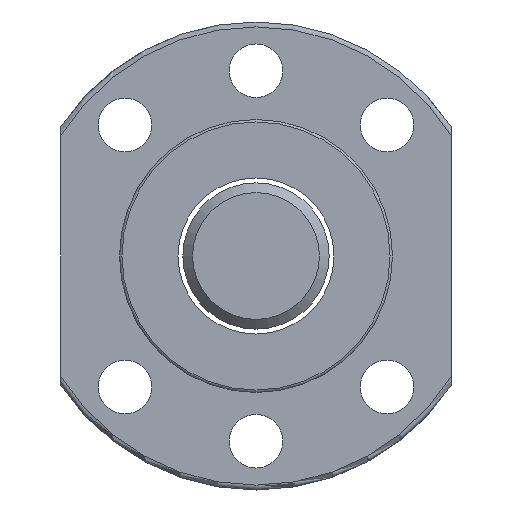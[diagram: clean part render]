
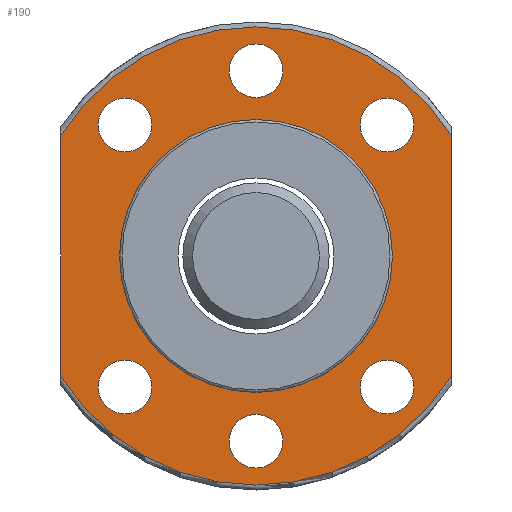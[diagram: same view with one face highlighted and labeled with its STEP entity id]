
A CAD part, left-side view. The second image highlights one B-rep face of the part: STEP entity #190.
In plain terms, the highlighted planar face has unit normal (-1, 0, 0).
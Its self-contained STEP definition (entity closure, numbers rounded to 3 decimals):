
#97=LINE('',#1206,#105);
#98=LINE('',#1208,#106);
#105=VECTOR('',#943,1.);
#106=VECTOR('',#944,1.);
#190=ADVANCED_FACE('',(#240,#285,#286,#287,#288,#289,#290,#291),#219,.T.);
#219=PLANE('',#793);
#240=FACE_OUTER_BOUND('',#372,.T.);
#285=FACE_BOUND('',#373,.T.);
#286=FACE_BOUND('',#374,.T.);
#287=FACE_BOUND('',#375,.T.);
#288=FACE_BOUND('',#376,.T.);
#289=FACE_BOUND('',#377,.T.);
#290=FACE_BOUND('',#378,.T.);
#291=FACE_BOUND('',#379,.T.);
#372=EDGE_LOOP('',(#477,#478,#479,#480));
#373=EDGE_LOOP('',(#481));
#374=EDGE_LOOP('',(#482));
#375=EDGE_LOOP('',(#483));
#376=EDGE_LOOP('',(#484));
#377=EDGE_LOOP('',(#485));
#378=EDGE_LOOP('',(#486));
#379=EDGE_LOOP('',(#487));
#477=ORIENTED_EDGE('',*,*,#644,.F.);
#478=ORIENTED_EDGE('',*,*,#637,.F.);
#479=ORIENTED_EDGE('',*,*,#645,.T.);
#480=ORIENTED_EDGE('',*,*,#646,.F.);
#481=ORIENTED_EDGE('',*,*,#647,.T.);
#482=ORIENTED_EDGE('',*,*,#648,.F.);
#483=ORIENTED_EDGE('',*,*,#649,.F.);
#484=ORIENTED_EDGE('',*,*,#650,.F.);
#485=ORIENTED_EDGE('',*,*,#651,.F.);
#486=ORIENTED_EDGE('',*,*,#652,.F.);
#487=ORIENTED_EDGE('',*,*,#653,.F.);
#576=VERTEX_POINT('',#1127);
#578=VERTEX_POINT('',#1149);
#583=VERTEX_POINT('',#1207);
#584=VERTEX_POINT('',#1209);
#585=VERTEX_POINT('',#1212);
#586=VERTEX_POINT('',#1214);
#587=VERTEX_POINT('',#1216);
#588=VERTEX_POINT('',#1218);
#589=VERTEX_POINT('',#1220);
#590=VERTEX_POINT('',#1222);
#591=VERTEX_POINT('',#1224);
#637=EDGE_CURVE('',#578,#576,#702,.T.);
#644=EDGE_CURVE('',#576,#583,#97,.T.);
#645=EDGE_CURVE('',#578,#584,#98,.T.);
#646=EDGE_CURVE('',#583,#584,#705,.T.);
#647=EDGE_CURVE('',#585,#585,#706,.T.);
#648=EDGE_CURVE('',#586,#586,#707,.T.);
#649=EDGE_CURVE('',#587,#587,#708,.T.);
#650=EDGE_CURVE('',#588,#588,#709,.T.);
#651=EDGE_CURVE('',#589,#589,#710,.T.);
#652=EDGE_CURVE('',#590,#590,#711,.T.);
#653=EDGE_CURVE('',#591,#591,#712,.T.);
#702=CIRCLE('',#779,23.5);
#705=CIRCLE('',#785,23.5);
#706=CIRCLE('',#786,14.);
#707=CIRCLE('',#787,2.75);
#708=CIRCLE('',#788,2.75);
#709=CIRCLE('',#789,2.75);
#710=CIRCLE('',#790,2.75);
#711=CIRCLE('',#791,2.75);
#712=CIRCLE('',#792,2.75);
#779=AXIS2_PLACEMENT_3D('',#1150,#929,#930);
#785=AXIS2_PLACEMENT_3D('',#1210,#945,#946);
#786=AXIS2_PLACEMENT_3D('',#1211,#947,#948);
#787=AXIS2_PLACEMENT_3D('',#1213,#949,#950);
#788=AXIS2_PLACEMENT_3D('',#1215,#951,#952);
#789=AXIS2_PLACEMENT_3D('',#1217,#953,#954);
#790=AXIS2_PLACEMENT_3D('',#1219,#955,#956);
#791=AXIS2_PLACEMENT_3D('',#1221,#957,#958);
#792=AXIS2_PLACEMENT_3D('',#1223,#959,#960);
#793=AXIS2_PLACEMENT_3D('',#1225,#961,#962);
#929=DIRECTION('',(1.,0.,0.));
#930=DIRECTION('',(0.,1.,0.));
#943=DIRECTION('',(0.,0.,1.));
#944=DIRECTION('',(0.,0.,1.));
#945=DIRECTION('',(1.,0.,0.));
#946=DIRECTION('',(0.,1.,0.));
#947=DIRECTION('',(1.,0.,0.));
#948=DIRECTION('',(0.,1.,0.));
#949=DIRECTION('',(-1.,0.,0.));
#950=DIRECTION('',(0.,-1.,0.));
#951=DIRECTION('',(-1.,0.,0.));
#952=DIRECTION('',(0.,-1.,0.));
#953=DIRECTION('',(-1.,0.,0.));
#954=DIRECTION('',(0.,-1.,0.));
#955=DIRECTION('',(-1.,0.,0.));
#956=DIRECTION('',(0.,-1.,0.));
#957=DIRECTION('',(-1.,0.,0.));
#958=DIRECTION('',(0.,-1.,0.));
#959=DIRECTION('',(-1.,0.,0.));
#960=DIRECTION('',(0.,-1.,0.));
#961=DIRECTION('',(-1.,0.,0.));
#962=DIRECTION('',(0.,-1.,0.));
#1127=CARTESIAN_POINT('',(-25.,20.,-12.339));
#1149=CARTESIAN_POINT('',(-25.,-20.,-12.339));
#1150=CARTESIAN_POINT('',(-25.,0.,0.));
#1206=CARTESIAN_POINT('',(-25.,20.,0.));
#1207=CARTESIAN_POINT('',(-25.,20.,12.339));
#1208=CARTESIAN_POINT('',(-25.,-20.,0.));
#1209=CARTESIAN_POINT('',(-25.,-20.,12.339));
#1210=CARTESIAN_POINT('',(-25.,0.,0.));
#1211=CARTESIAN_POINT('',(-25.,0.,0.));
#1212=CARTESIAN_POINT('',(-25.,14.,0.));
#1213=CARTESIAN_POINT('',(-25.,13.435,13.435));
#1214=CARTESIAN_POINT('',(-25.,10.685,13.435));
#1215=CARTESIAN_POINT('',(-25.,-13.435,13.435));
#1216=CARTESIAN_POINT('',(-25.,-16.185,13.435));
#1217=CARTESIAN_POINT('',(-25.,-13.435,-13.435));
#1218=CARTESIAN_POINT('',(-25.,-16.185,-13.435));
#1219=CARTESIAN_POINT('',(-25.,13.435,-13.435));
#1220=CARTESIAN_POINT('',(-25.,10.685,-13.435));
#1221=CARTESIAN_POINT('',(-25.,0.,19.));
#1222=CARTESIAN_POINT('',(-25.,-2.75,19.));
#1223=CARTESIAN_POINT('',(-25.,0.,-19.));
#1224=CARTESIAN_POINT('',(-25.,-2.75,-19.));
#1225=CARTESIAN_POINT('',(-25.,18.75,0.));
